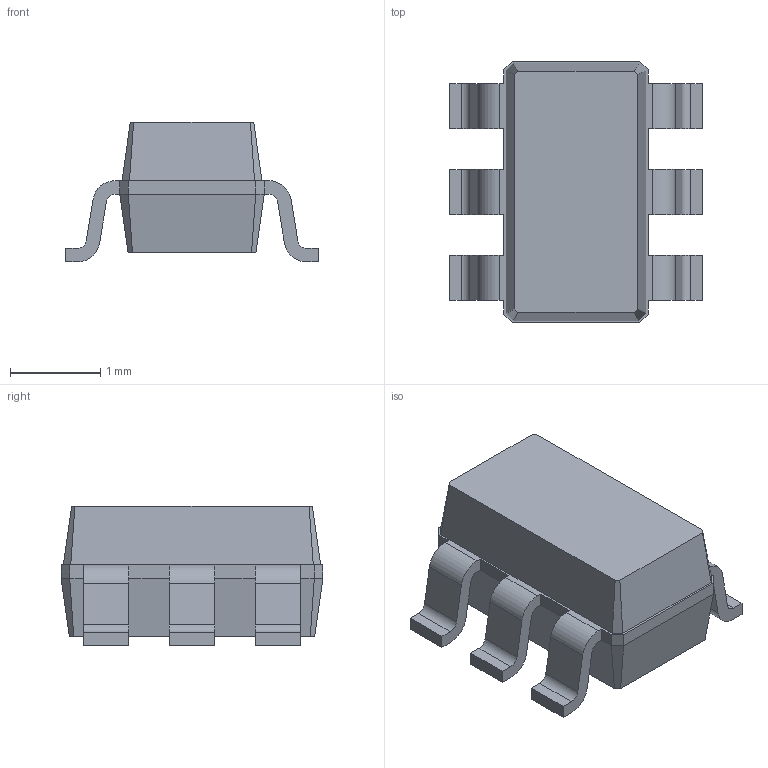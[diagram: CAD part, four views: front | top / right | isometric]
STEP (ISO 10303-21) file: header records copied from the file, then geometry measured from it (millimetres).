
FILE_DESCRIPTION(/* description */ ('STEP AP242 Edition 2','CAx-IF Rec.Pracs.---Representation and Presentation of Product Manufacturing Information (PMI)---4.0---2014-10-13','CAx-IF Rec.Pracs.---3D Tessellated Geometry---0.4---2014-09-14','2;1','CAx-IF Rec.Pracs.---User Defined Attributes---1.5---2016-08-15'),/* implementation_level */ '2;1');
FILE_NAME(/* name */ 'v2_assembly - SOT-23-6',/* time_stamp */ '2026-05-19T16:26:07Z',/* author */ (''),/* organization */ (''),/* preprocessor_version */ 'ST-DEVELOPER v20',/* originating_system */ 'ONSHAPE BY PTC INC, 1.215',/* authorisation */ ' ');
FILE_SCHEMA (('AP242_MANAGED_MODEL_BASED_3D_ENGINEERING_MIM_LF { 1 0 10303 442 3 1 4 }'));
Length unit declared in the file: metre
Products named in the file (1): SOT-23-6
Bounding box: 2.8 x 2.9 x 1.55 mm (x, y, z)
Volume: 6.6 mm3; surface area: 28.9 mm2
Topology: 1 solids, 1 shells, 105 faces, 286 edges, 184 vertices
Faces by surface type: plane 81, cylinder 24
Entity records: 3508 total; most frequent: CARTESIAN_POINT 576, ORIENTED_EDGE 572, DIRECTION 546, EDGE_CURVE 286, LINE 238, VECTOR 238, VERTEX_POINT 184, AXIS2_PLACEMENT_3D 154
